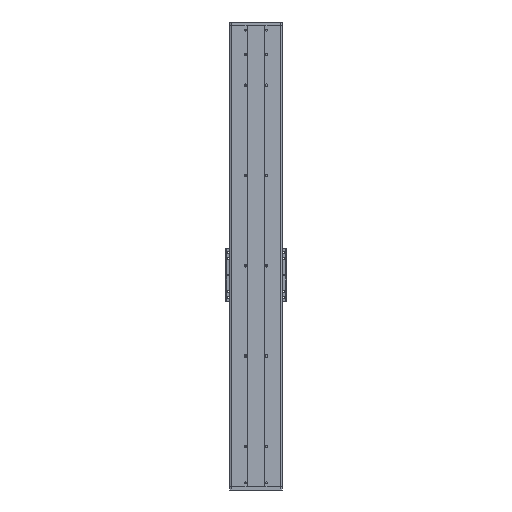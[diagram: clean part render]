
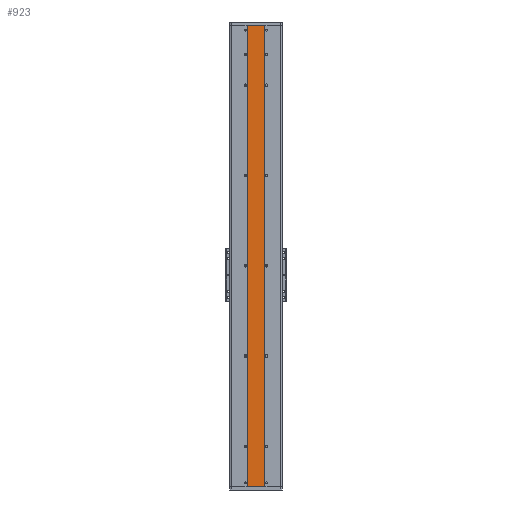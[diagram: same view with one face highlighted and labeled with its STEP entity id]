
A CAD part, front view. The second image highlights one B-rep face of the part: STEP entity #923.
In plain terms, the highlighted planar face has unit normal (0, -1, 0).
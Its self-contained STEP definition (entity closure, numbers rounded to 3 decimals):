
#923 = ADVANCED_FACE ( 'NONE', ( #17036 ), #43909, .F. ) ;
#3132 = DIRECTION ( 'NONE',  ( -1., 0., 0. ) ) ;
#3502 = CARTESIAN_POINT ( 'NONE',  ( 1.27, -85.314, -345. ) ) ;
#5072 = VECTOR ( 'NONE', #3132, 1000. ) ;
#5493 = DIRECTION ( 'NONE',  ( 0., 0., 1. ) ) ;
#6127 = VECTOR ( 'NONE', #16467, 1000. ) ;
#6464 = VERTEX_POINT ( 'NONE', #10541 ) ;
#7030 = DIRECTION ( 'NONE',  ( 0., 0., 1. ) ) ;
#8927 = EDGE_CURVE ( 'NONE', #6464, #32127, #45176, .T. ) ;
#9002 = LINE ( 'NONE', #44047, #45136 ) ;
#10541 = CARTESIAN_POINT ( 'NONE',  ( 1.27, -85.314, 0. ) ) ;
#12219 = CARTESIAN_POINT ( 'NONE',  ( 1.27, -85.314, 1535. ) ) ;
#15803 = EDGE_LOOP ( 'NONE', ( #29390, #34460, #44158, #17129 ) ) ;
#16467 = DIRECTION ( 'NONE',  ( -1., 0., 0. ) ) ;
#16565 = LINE ( 'NONE', #33806, #6127 ) ;
#17036 = FACE_OUTER_BOUND ( 'NONE', #15803, .T. ) ;
#17129 = ORIENTED_EDGE ( 'NONE', *, *, #21395, .F. ) ;
#17202 = AXIS2_PLACEMENT_3D ( 'NONE', #22920, #26468, #5493 ) ;
#18324 = VERTEX_POINT ( 'NONE', #31392 ) ;
#20541 = EDGE_CURVE ( 'NONE', #18324, #23548, #9002, .T. ) ;
#21395 = EDGE_CURVE ( 'NONE', #18324, #6464, #42328, .T. ) ;
#21501 = CARTESIAN_POINT ( 'NONE',  ( 58.27, -85.314, 1535. ) ) ;
#21927 = EDGE_CURVE ( 'NONE', #23548, #32127, #16565, .T. ) ;
#22920 = CARTESIAN_POINT ( 'NONE',  ( 1.27, -85.314, -345. ) ) ;
#23548 = VERTEX_POINT ( 'NONE', #21501 ) ;
#26468 = DIRECTION ( 'NONE',  ( 0., 1., 0. ) ) ;
#29390 = ORIENTED_EDGE ( 'NONE', *, *, #20541, .T. ) ;
#30114 = DIRECTION ( 'NONE',  ( 0., 0., 1. ) ) ;
#31392 = CARTESIAN_POINT ( 'NONE',  ( 58.27, -85.314, 0. ) ) ;
#32127 = VERTEX_POINT ( 'NONE', #12219 ) ;
#33806 = CARTESIAN_POINT ( 'NONE',  ( 1.27, -85.314, 1535. ) ) ;
#34460 = ORIENTED_EDGE ( 'NONE', *, *, #21927, .T. ) ;
#41887 = VECTOR ( 'NONE', #7030, 1000. ) ;
#42328 = LINE ( 'NONE', #45047, #5072 ) ;
#43909 = PLANE ( 'NONE',  #17202 ) ;
#44047 = CARTESIAN_POINT ( 'NONE',  ( 58.27, -85.314, -345. ) ) ;
#44158 = ORIENTED_EDGE ( 'NONE', *, *, #8927, .F. ) ;
#45047 = CARTESIAN_POINT ( 'NONE',  ( 0., -85.314, 0. ) ) ;
#45136 = VECTOR ( 'NONE', #30114, 1000. ) ;
#45176 = LINE ( 'NONE', #3502, #41887 ) ;
